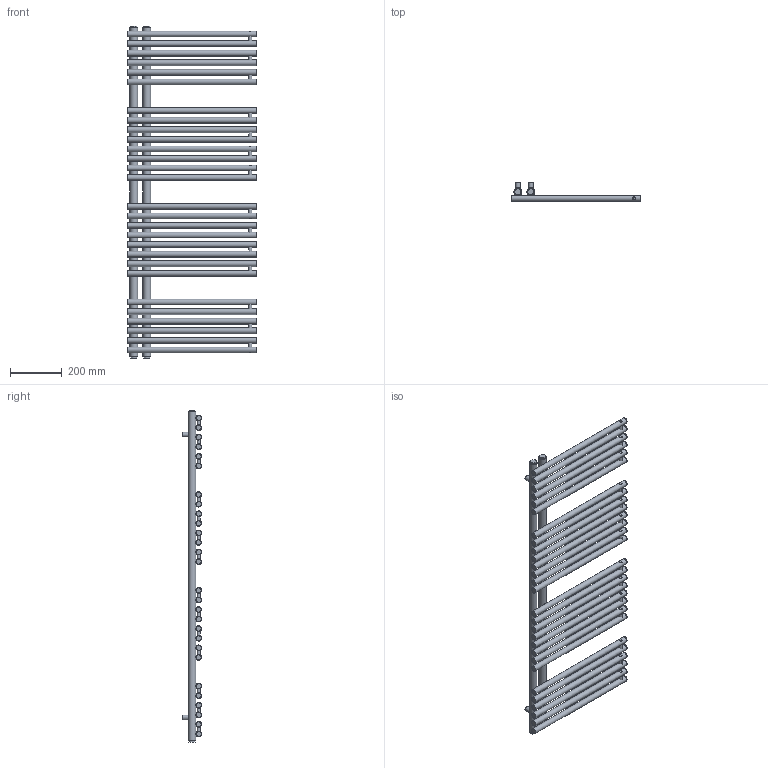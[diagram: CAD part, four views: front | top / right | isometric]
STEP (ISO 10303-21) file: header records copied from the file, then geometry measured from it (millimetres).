
FILE_DESCRIPTION(/* description */ (''),/* implementation_level */ '2;1');
FILE_NAME(/* name */ 'C:\Grzejniki\13DLUXRAD\łazienkowe\MODEL E\MODEL E 1271x500.iam.stp',/* time_stamp */ '2016-06-28T17:35:16+02:00',/* author */ ('m.szydziak'),/* organization */ (''),/* preprocessor_version */ 'ST-DEVELOPER v16.5',/* originating_system */ 'Autodesk Inventor 2017',/* authorisation */ '');
FILE_SCHEMA (('AUTOMOTIVE_DESIGN { 1 0 10303 214 3 1 1 }'));
Length unit declared in the file: millimetre
Products named in the file (7): MODEL E 1271x500; %%c30x1,5x1271; %%c22x1,2x500; uchwyt stały; zaślepka fi30 G0,5inch; korek; %%c18x1,5x54
Assembly tree (56 placements, depth 2):
  MODEL E 1271x500
    %%c30x1,5x1271  x2
    %%c22x1,2x500  x28
    uchwyt stały  x4
    zaślepka fi30 G0,5inch  x4
    korek  x4
    %%c18x1,5x54  x14
Bounding box: 500 x 74 x 1283 mm (x, y, z)
Volume: 1510162.3 mm3; surface area: 2384219.5 mm2
Topology: 56 solids, 84 shells, 388 faces, 796 edges, 580 vertices
Faces by surface type: plane 220, cylinder 168
Full cylindrical faces by diameter (mm): 9 x14, 10 x56, 12 x14, 15 x4, 18 x4, 18.631 x8, 19.6 x28, 22 x28, 24 x4, 27 x6, 30 x2
Entity records: 4441 total; most frequent: CARTESIAN_POINT 2314, DIRECTION 362, ORIENTED_EDGE 290, EDGE_LOOP 176, AXIS2_PLACEMENT_3D 169, EDGE_CURVE 145, VERTEX_POINT 133, FACE_BOUND 107
